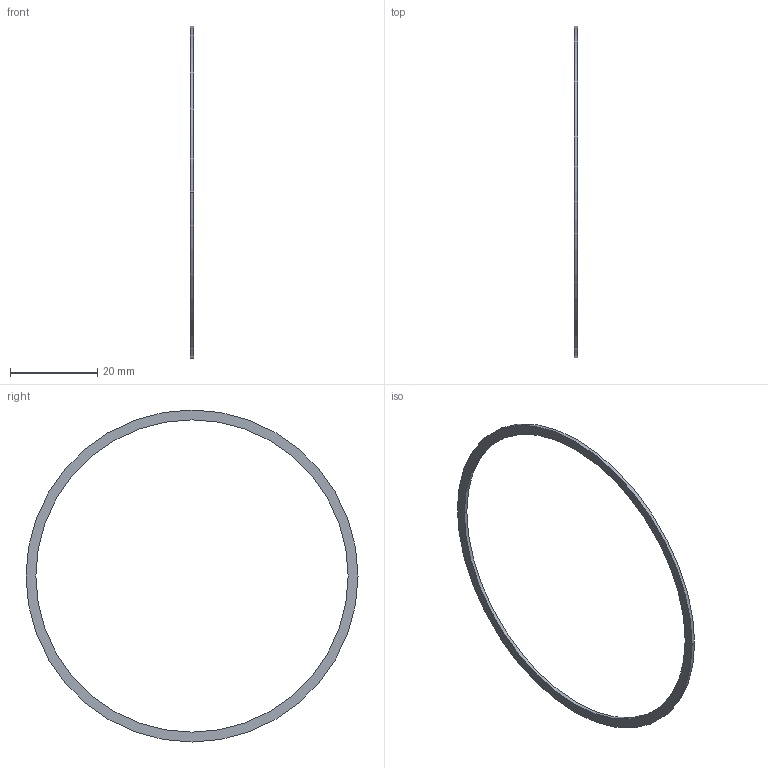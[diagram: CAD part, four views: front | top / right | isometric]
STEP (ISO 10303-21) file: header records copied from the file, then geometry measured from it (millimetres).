
FILE_DESCRIPTION(/* description */ ('VariCAD 2010-1.04 AP-203'),/* implementation_level */ '2;1');
FILE_NAME(/* name */ '0353-30-25',/* time_stamp */ '2010-01-13T00:48:40-07:00',/* author */ (''),/* organization */ (''),/* preprocessor_version */ 'ST-DEVELOPER v12',/* originating_system */ 'VariCAD 2010-1.04; kernel version (20090520)',/* authorisation */ '');
FILE_SCHEMA (('CONFIG_CONTROL_DESIGN'));
Length unit declared in the file: millimetre
Products named in the file (1): Part
Bounding box: 0.8 x 76 x 76 mm (x, y, z)
Volume: 417 mm3; surface area: 1413.3 mm2
Topology: 1 solids, 1 shells, 6 faces, 12 edges, 8 vertices
Faces by surface type: cylinder 4, plane 2
Entity records: 214 total; most frequent: DIRECTION 36, CARTESIAN_POINT 28, ORIENTED_EDGE 24, AXIS2_PLACEMENT_3D 16, EDGE_CURVE 12, EDGE_LOOP 8, CIRCLE 8, VERTEX_POINT 8
